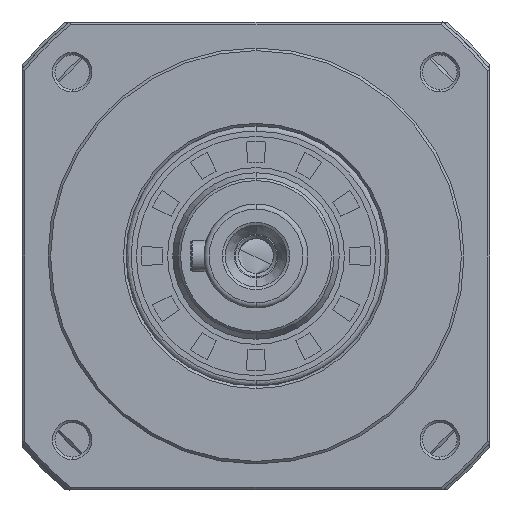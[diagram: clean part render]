
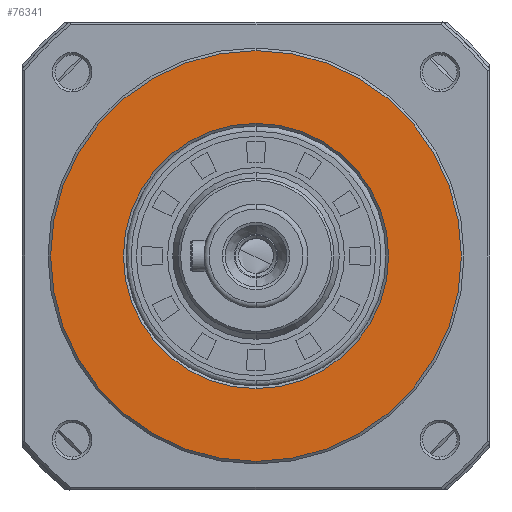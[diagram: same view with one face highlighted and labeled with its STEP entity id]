
A CAD part, left-side view. The second image highlights one B-rep face of the part: STEP entity #76341.
In plain terms, the highlighted planar face has unit normal (-1, 0, 0).
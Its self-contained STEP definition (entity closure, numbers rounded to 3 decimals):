
#793 = VERTEX_POINT ( 'NONE', #39575 ) ;
#3487 = VERTEX_POINT ( 'NONE', #71037 ) ;
#4619 = CIRCLE ( 'NONE', #73034, 39.5 ) ;
#5817 = ORIENTED_EDGE ( 'NONE', *, *, #60125, .T. ) ;
#11200 = CARTESIAN_POINT ( 'NONE',  ( 0., 0., 0. ) ) ;
#11825 = DIRECTION ( 'NONE',  ( 0., 0., -1. ) ) ;
#14829 = CARTESIAN_POINT ( 'NONE',  ( 0., -39.974, 39.974 ) ) ;
#17905 = AXIS2_PLACEMENT_3D ( 'NONE', #94088, #79348, #42055 ) ;
#22047 = DIRECTION ( 'NONE',  ( 1., 0., 0. ) ) ;
#22689 = PLANE ( 'NONE',  #56529 ) ;
#23776 = VERTEX_POINT ( 'NONE', #58294 ) ;
#25684 = EDGE_CURVE ( 'NONE', #3487, #23776, #34788, .T. ) ;
#27836 = DIRECTION ( 'NONE',  ( 0., 0., 1. ) ) ;
#31327 = FACE_OUTER_BOUND ( 'NONE', #84750, .T. ) ;
#32954 = DIRECTION ( 'NONE',  ( 1., 0., 0. ) ) ;
#34788 = CIRCLE ( 'NONE', #17905, 39.5 ) ;
#35054 = ORIENTED_EDGE ( 'NONE', *, *, #39842, .T. ) ;
#35921 = EDGE_CURVE ( 'NONE', #23776, #3487, #4619, .T. ) ;
#39575 = CARTESIAN_POINT ( 'NONE',  ( 0., 0., 25.5 ) ) ;
#39842 = EDGE_CURVE ( 'NONE', #793, #45547, #46067, .T. ) ;
#42055 = DIRECTION ( 'NONE',  ( 0., 0., -1. ) ) ;
#45547 = VERTEX_POINT ( 'NONE', #58759 ) ;
#46067 = CIRCLE ( 'NONE', #63129, 25.5 ) ;
#47933 = DIRECTION ( 'NONE',  ( 0., 0., 1. ) ) ;
#56529 = AXIS2_PLACEMENT_3D ( 'NONE', #14829, #22047, #88700 ) ;
#58294 = CARTESIAN_POINT ( 'NONE',  ( 0., 0., 39.5 ) ) ;
#58759 = CARTESIAN_POINT ( 'NONE',  ( 0., 0., -25.5 ) ) ;
#60125 = EDGE_CURVE ( 'NONE', #45547, #793, #81981, .T. ) ;
#63129 = AXIS2_PLACEMENT_3D ( 'NONE', #77727, #32954, #47933 ) ;
#65365 = DIRECTION ( 'NONE',  ( 1., 0., 0. ) ) ;
#68205 = EDGE_LOOP ( 'NONE', ( #35054, #5817 ) ) ;
#69504 = ORIENTED_EDGE ( 'NONE', *, *, #25684, .F. ) ;
#70653 = DIRECTION ( 'NONE',  ( 1., 0., 0. ) ) ;
#71037 = CARTESIAN_POINT ( 'NONE',  ( 0., 0., -39.5 ) ) ;
#71040 = FACE_BOUND ( 'NONE', #68205, .T. ) ;
#73034 = AXIS2_PLACEMENT_3D ( 'NONE', #11200, #70653, #11825 ) ;
#76341 = ADVANCED_FACE ( 'NONE', ( #71040, #31327 ), #22689, .F. ) ;
#77727 = CARTESIAN_POINT ( 'NONE',  ( 0., 0., 0. ) ) ;
#79348 = DIRECTION ( 'NONE',  ( 1., 0., 0. ) ) ;
#80433 = CARTESIAN_POINT ( 'NONE',  ( 0., 0., 0. ) ) ;
#81981 = CIRCLE ( 'NONE', #86222, 25.5 ) ;
#84750 = EDGE_LOOP ( 'NONE', ( #69504, #86089 ) ) ;
#86089 = ORIENTED_EDGE ( 'NONE', *, *, #35921, .F. ) ;
#86222 = AXIS2_PLACEMENT_3D ( 'NONE', #80433, #65365, #27836 ) ;
#88700 = DIRECTION ( 'NONE',  ( 0., 0., -1. ) ) ;
#94088 = CARTESIAN_POINT ( 'NONE',  ( 0., 0., 0. ) ) ;
